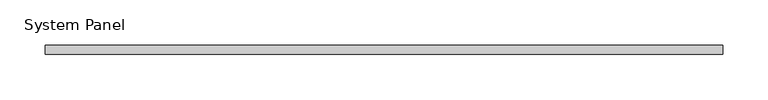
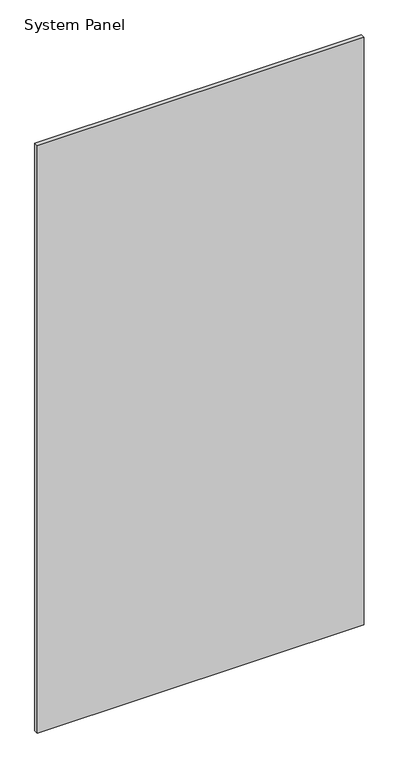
"""IFC4 building model written with IfcOpenShell, lengths in millimetres: plate geometry, System Panel : стекло_смещение_0."""

from ifc_helpers import new_model, si_unit, origin, origin_with_axes, place, context, project, spatial, polyline, outline, extrude, source, transform, mapped, element, save


def system_panel_2286511f(model_context):
    return source(origin(), model_context, "Body", "SweptSolid", [
        extrude(outline(polyline([(375.0, -5.0), (-375.0, -5.0), (-375.0, 5.0), (375.0, 5.0), (375.0, -5.0)])), origin_with_axes(), (0.0, 0.0, 1.0), 1425.0),
    ])


if __name__ == "__main__":
    model = new_model("IFC4")
    model_context = context("Model", 3, world=origin())
    ifc_project = project(units=[si_unit("LENGTHUNIT", "METRE", prefix="MILLI")], contexts=[model_context])
    site = spatial("IfcSite", under=ifc_project)
    building = spatial("IfcBuilding", under=site)
    placement = place(None, origin())
    system_panel_shape = system_panel_2286511f(model_context)
    element("IfcPlate", 1, ObjectType="System Panel : стекло_смещение_0", at=placement, inside=building, context=model_context, shape_type="MappedRepresentation", body=[
        mapped(system_panel_shape, transform((0.0, 0.0, 0.0), x_axis=(1.0, 0.0, 0.0), y_axis=(0.0, 1.0, 0.0), z_axis=(0.0, 0.0, 1.0))),
    ])
    save(model, "model.ifc")
